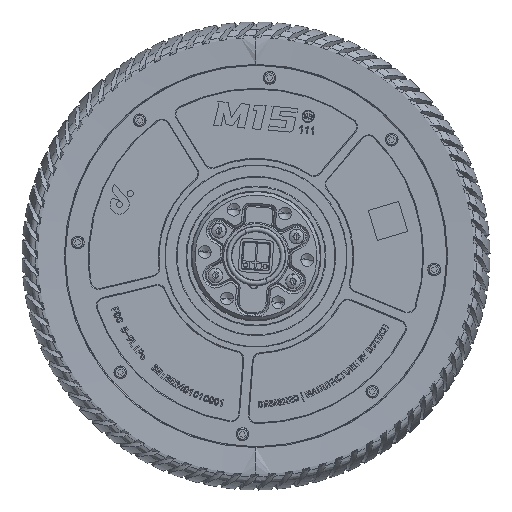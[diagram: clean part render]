
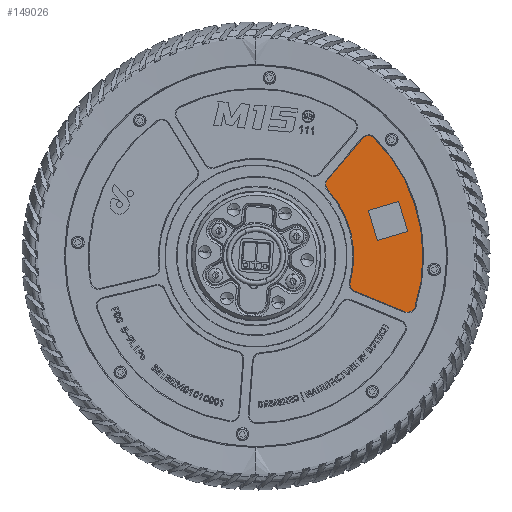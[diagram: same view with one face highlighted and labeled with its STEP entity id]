
A CAD part, left-side view. The second image highlights one B-rep face of the part: STEP entity #149026.
In plain terms, the highlighted planar face has unit normal (-1, 0, 0) as drawn and (0, 1, 0) by its records, which use the part's own axes.
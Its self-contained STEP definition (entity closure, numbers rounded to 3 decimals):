
#986 = ORIENTED_EDGE ( 'NONE', *, *, #277821, .T. ) ;
#4801 = VECTOR ( 'NONE', #170701, 1000. ) ;
#6447 = DIRECTION ( 'NONE',  ( 0., 1., 0. ) ) ;
#7291 = AXIS2_PLACEMENT_3D ( 'NONE', #205189, #133690, #86394 ) ;
#9691 = VERTEX_POINT ( 'NONE', #126129 ) ;
#11448 = EDGE_CURVE ( 'NONE', #285950, #12023, #239063, .T. ) ;
#12023 = VERTEX_POINT ( 'NONE', #231665 ) ;
#12256 = DIRECTION ( 'NONE',  ( 0., 1., 0. ) ) ;
#12701 = CARTESIAN_POINT ( 'NONE',  ( 15.035, 17.416, -63.237 ) ) ;
#14362 = VECTOR ( 'NONE', #164641, 1000. ) ;
#17031 = ORIENTED_EDGE ( 'NONE', *, *, #128403, .T. ) ;
#17954 = DIRECTION ( 'NONE',  ( 0., 0., 1. ) ) ;
#23129 = PLANE ( 'NONE',  #247272 ) ;
#23242 = AXIS2_PLACEMENT_3D ( 'NONE', #180006, #64194, #293789 ) ;
#32256 = VERTEX_POINT ( 'NONE', #271817 ) ;
#32672 = DIRECTION ( 'NONE',  ( 0., 0., 1. ) ) ;
#37222 = EDGE_CURVE ( 'NONE', #239281, #32256, #100478, .T. ) ;
#37710 = DIRECTION ( 'NONE',  ( 0., 1., 0. ) ) ;
#46367 = EDGE_CURVE ( 'NONE', #258694, #274075, #229216, .T. ) ;
#47547 = ORIENTED_EDGE ( 'NONE', *, *, #118509, .T. ) ;
#48048 = EDGE_CURVE ( 'NONE', #90937, #9691, #88212, .T. ) ;
#51587 = ORIENTED_EDGE ( 'NONE', *, *, #85079, .T. ) ;
#52050 = VERTEX_POINT ( 'NONE', #67456 ) ;
#54041 = ORIENTED_EDGE ( 'NONE', *, *, #171326, .T. ) ;
#56088 = EDGE_CURVE ( 'NONE', #274075, #202637, #292615, .T. ) ;
#58723 = EDGE_CURVE ( 'NONE', #297495, #239281, #281040, .T. ) ;
#60999 = EDGE_CURVE ( 'NONE', #12023, #52050, #226744, .T. ) ;
#63728 = AXIS2_PLACEMENT_3D ( 'NONE', #175728, #37710, #183601 ) ;
#64194 = DIRECTION ( 'NONE',  ( 0., 1., 0. ) ) ;
#67408 = CIRCLE ( 'NONE', #7291, 3. ) ;
#67456 = CARTESIAN_POINT ( 'NONE',  ( -27.789, 17.416, -25.918 ) ) ;
#75507 = LINE ( 'NONE', #213859, #14362 ) ;
#76384 = VECTOR ( 'NONE', #252970, 1000. ) ;
#80636 = DIRECTION ( 'NONE',  ( 0., 0., 1. ) ) ;
#81071 = ORIENTED_EDGE ( 'NONE', *, *, #60999, .T. ) ;
#85079 = EDGE_CURVE ( 'NONE', #253773, #258694, #75507, .T. ) ;
#86394 = DIRECTION ( 'NONE',  ( 0., 0., 1. ) ) ;
#86947 = ORIENTED_EDGE ( 'NONE', *, *, #270071, .T. ) ;
#88212 = CIRCLE ( 'NONE', #96537, 65. ) ;
#90791 = CARTESIAN_POINT ( 'NONE',  ( 7.148, 17.416, -2.728 ) ) ;
#90937 = VERTEX_POINT ( 'NONE', #12701 ) ;
#92184 = DIRECTION ( 'NONE',  ( 0.932, 0., -0.362 ) ) ;
#96537 = AXIS2_PLACEMENT_3D ( 'NONE', #219650, #12256, #80636 ) ;
#97522 = ORIENTED_EDGE ( 'NONE', *, *, #46367, .T. ) ;
#99054 = CARTESIAN_POINT ( 'NONE',  ( -29.983, 17.416, -27.964 ) ) ;
#100478 = LINE ( 'NONE', #270419, #158047 ) ;
#109557 = ORIENTED_EDGE ( 'NONE', *, *, #48048, .T. ) ;
#116420 = DIRECTION ( 'NONE',  ( 0., 0., 1. ) ) ;
#118509 = EDGE_CURVE ( 'NONE', #202637, #253773, #152357, .T. ) ;
#124544 = VERTEX_POINT ( 'NONE', #200814 ) ;
#126129 = CARTESIAN_POINT ( 'NONE',  ( -49.334, 17.416, -42.322 ) ) ;
#126252 = ORIENTED_EDGE ( 'NONE', *, *, #11448, .T. ) ;
#126761 = ORIENTED_EDGE ( 'NONE', *, *, #236516, .T. ) ;
#128403 = EDGE_CURVE ( 'NONE', #124544, #297495, #67408, .T. ) ;
#133334 = DIRECTION ( 'NONE',  ( 0., 0., 1. ) ) ;
#133690 = DIRECTION ( 'NONE',  ( 0., 1., 0. ) ) ;
#134379 = CARTESIAN_POINT ( 'NONE',  ( -21.018, 17.416, -42.251 ) ) ;
#137948 = EDGE_LOOP ( 'NONE', ( #231531, #126761, #109557, #86947, #986, #126252, #81071, #54041, #17031, #179908 ) ) ;
#146425 = CARTESIAN_POINT ( 'NONE',  ( 10.673, 17.416, -39.32 ) ) ;
#149026 = ADVANCED_FACE ( 'NONE', ( #226957, #280988 ), #23129, .T. ) ;
#152357 = LINE ( 'NONE', #156044, #199164 ) ;
#156044 = CARTESIAN_POINT ( 'NONE',  ( -16.997, 17.416, -43.811 ) ) ;
#158047 = VECTOR ( 'NONE', #201896, 1000. ) ;
#162849 = EDGE_LOOP ( 'NONE', ( #197045, #47547, #51587, #97522 ) ) ;
#164641 = DIRECTION ( 'NONE',  ( -0.357, 0., -0.934 ) ) ;
#166835 = CARTESIAN_POINT ( 'NONE',  ( -9.622, 17.416, -46.673 ) ) ;
#168451 = CARTESIAN_POINT ( 'NONE',  ( -14.016, 17.416, -58.188 ) ) ;
#170701 = DIRECTION ( 'NONE',  ( 0.809, 0., 0.588 ) ) ;
#171326 = EDGE_CURVE ( 'NONE', #52050, #124544, #219723, .T. ) ;
#175728 = CARTESIAN_POINT ( 'NONE',  ( 14.341, 17.416, -60.319 ) ) ;
#179908 = ORIENTED_EDGE ( 'NONE', *, *, #58723, .T. ) ;
#180006 = CARTESIAN_POINT ( 'NONE',  ( -47.057, 17.416, -40.369 ) ) ;
#181019 = DIRECTION ( 'NONE',  ( 0., 1., 0. ) ) ;
#183601 = DIRECTION ( 'NONE',  ( 0., 0., 1. ) ) ;
#184651 = AXIS2_PLACEMENT_3D ( 'NONE', #250572, #276654, #116420 ) ;
#185226 = DIRECTION ( 'NONE',  ( 0., 1., 0. ) ) ;
#189860 = CIRCLE ( 'NONE', #63728, 3. ) ;
#195832 = CARTESIAN_POINT ( 'NONE',  ( -51.386, 17.416, -39.806 ) ) ;
#197045 = ORIENTED_EDGE ( 'NONE', *, *, #56088, .T. ) ;
#199164 = VECTOR ( 'NONE', #270854, 1000. ) ;
#200354 = AXIS2_PLACEMENT_3D ( 'NONE', #223998, #271389, #133334 ) ;
#200814 = CARTESIAN_POINT ( 'NONE',  ( 7.248, 17.416, -37.302 ) ) ;
#201896 = DIRECTION ( 'NONE',  ( 0.309, 0., -0.951 ) ) ;
#202637 = VERTEX_POINT ( 'NONE', #166835 ) ;
#205189 = CARTESIAN_POINT ( 'NONE',  ( 7.82, 17.416, -40.247 ) ) ;
#208362 = CARTESIAN_POINT ( 'NONE',  ( 0., 17.416, 0. ) ) ;
#213859 = CARTESIAN_POINT ( 'NONE',  ( -4.273, 17.416, 1.631 ) ) ;
#219650 = CARTESIAN_POINT ( 'NONE',  ( 0., 17.416, 0. ) ) ;
#219723 = CIRCLE ( 'NONE', #184651, 38. ) ;
#223998 = CARTESIAN_POINT ( 'NONE',  ( 7.82, 17.416, -40.247 ) ) ;
#226744 = CIRCLE ( 'NONE', #244906, 3. ) ;
#226957 = FACE_BOUND ( 'NONE', #162849, .T. ) ;
#229216 = LINE ( 'NONE', #251405, #293964 ) ;
#230519 = DIRECTION ( 'NONE',  ( 0., 0., 1. ) ) ;
#231531 = ORIENTED_EDGE ( 'NONE', *, *, #37222, .T. ) ;
#231665 = CARTESIAN_POINT ( 'NONE',  ( -29.983, 17.416, -24.964 ) ) ;
#233006 = CIRCLE ( 'NONE', #23242, 3. ) ;
#236516 = EDGE_CURVE ( 'NONE', #32256, #90937, #189860, .T. ) ;
#236997 = VERTEX_POINT ( 'NONE', #262986 ) ;
#239063 = CIRCLE ( 'NONE', #261272, 3. ) ;
#239281 = VERTEX_POINT ( 'NONE', #146425 ) ;
#244906 = AXIS2_PLACEMENT_3D ( 'NONE', #295792, #181019, #17954 ) ;
#247272 = AXIS2_PLACEMENT_3D ( 'NONE', #208362, #185226, #230519 ) ;
#250572 = CARTESIAN_POINT ( 'NONE',  ( 0., 17.416, 0. ) ) ;
#251405 = CARTESIAN_POINT ( 'NONE',  ( -21.455, 17.416, -55.302 ) ) ;
#252970 = DIRECTION ( 'NONE',  ( 0.357, 0., 0.934 ) ) ;
#253402 = LINE ( 'NONE', #195832, #4801 ) ;
#253415 = CARTESIAN_POINT ( 'NONE',  ( -25.413, 17.416, -53.766 ) ) ;
#253773 = VERTEX_POINT ( 'NONE', #134379 ) ;
#258694 = VERTEX_POINT ( 'NONE', #253415 ) ;
#261272 = AXIS2_PLACEMENT_3D ( 'NONE', #99054, #6447, #32672 ) ;
#262798 = CARTESIAN_POINT ( 'NONE',  ( -31.747, 17.416, -25.537 ) ) ;
#262986 = CARTESIAN_POINT ( 'NONE',  ( -48.82, 17.416, -37.942 ) ) ;
#268742 = CARTESIAN_POINT ( 'NONE',  ( 7.82, 17.416, -37.247 ) ) ;
#270071 = EDGE_CURVE ( 'NONE', #9691, #236997, #233006, .T. ) ;
#270419 = CARTESIAN_POINT ( 'NONE',  ( 18.174, 17.416, -62.407 ) ) ;
#270854 = DIRECTION ( 'NONE',  ( -0.932, 0., 0.362 ) ) ;
#271389 = DIRECTION ( 'NONE',  ( 0., 1., 0. ) ) ;
#271817 = CARTESIAN_POINT ( 'NONE',  ( 17.195, 17.416, -59.391 ) ) ;
#274075 = VERTEX_POINT ( 'NONE', #168451 ) ;
#276654 = DIRECTION ( 'NONE',  ( 0., -1., 0. ) ) ;
#277821 = EDGE_CURVE ( 'NONE', #236997, #285950, #253402, .T. ) ;
#280988 = FACE_OUTER_BOUND ( 'NONE', #137948, .T. ) ;
#281040 = CIRCLE ( 'NONE', #200354, 3. ) ;
#285950 = VERTEX_POINT ( 'NONE', #262798 ) ;
#292615 = LINE ( 'NONE', #90791, #76384 ) ;
#293789 = DIRECTION ( 'NONE',  ( 0., 0., 1. ) ) ;
#293964 = VECTOR ( 'NONE', #92184, 1000. ) ;
#295792 = CARTESIAN_POINT ( 'NONE',  ( -29.983, 17.416, -27.964 ) ) ;
#297495 = VERTEX_POINT ( 'NONE', #268742 ) ;
